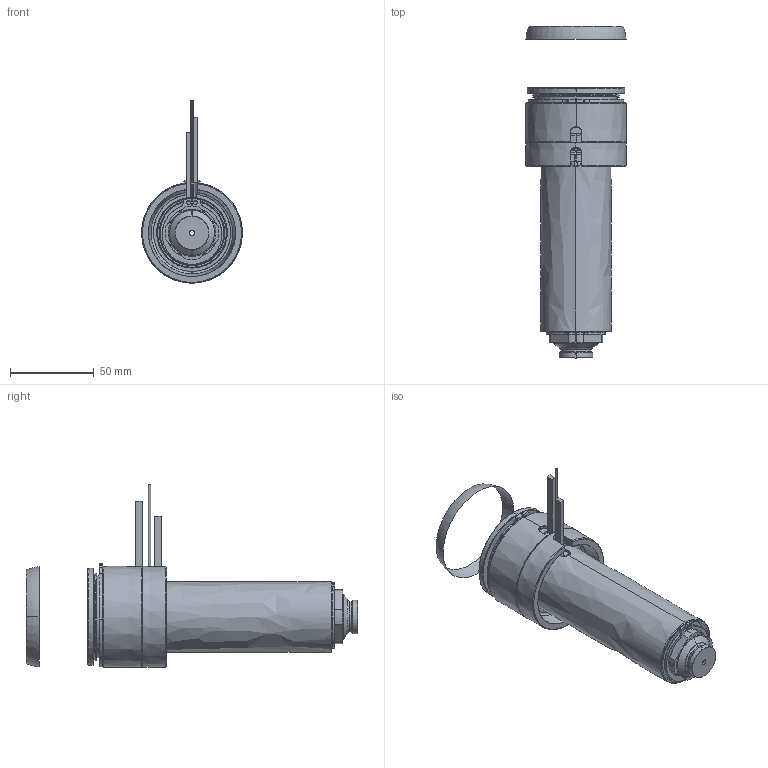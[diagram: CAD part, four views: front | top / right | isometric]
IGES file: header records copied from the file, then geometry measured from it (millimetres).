
Start section: SolidWorks IGES file using analytic representation for surfaces
Global section: file name: C:\Documents and Settings\ws-20\Desktop\TEM\UGER6605-S-A-0 [Øb-2.9 P-0 ØC-15].IGS; native system: SolidWorks 2012; preprocessor: SolidWorks 2012; author: ws-20; date: 120417.120026; units: millimetre
Bounding box: 60 x 197.77 x 108.65 mm (x, y, z)
Surface area: 89678.9 mm2 (no closed solid volume)
Topology: 0 solids, 0 shells, 162 faces, 3090 edges, 3090 vertices
Faces by surface type: revolution 100, bspline 62
